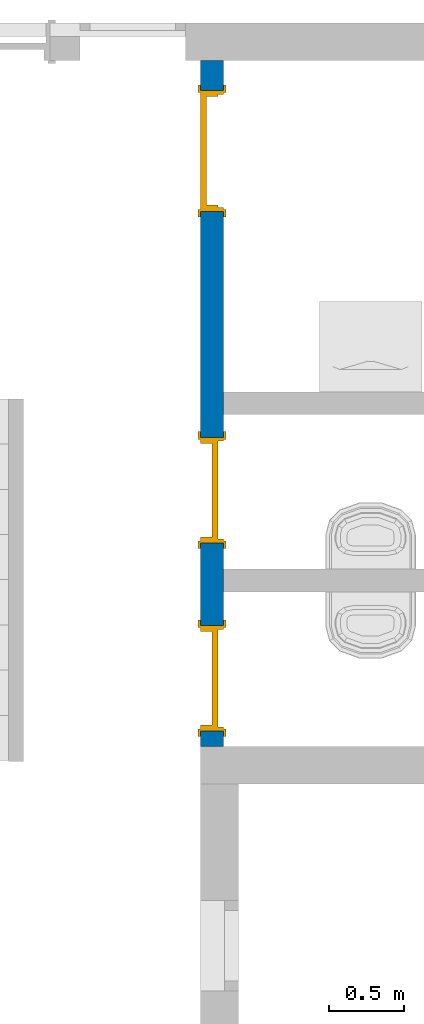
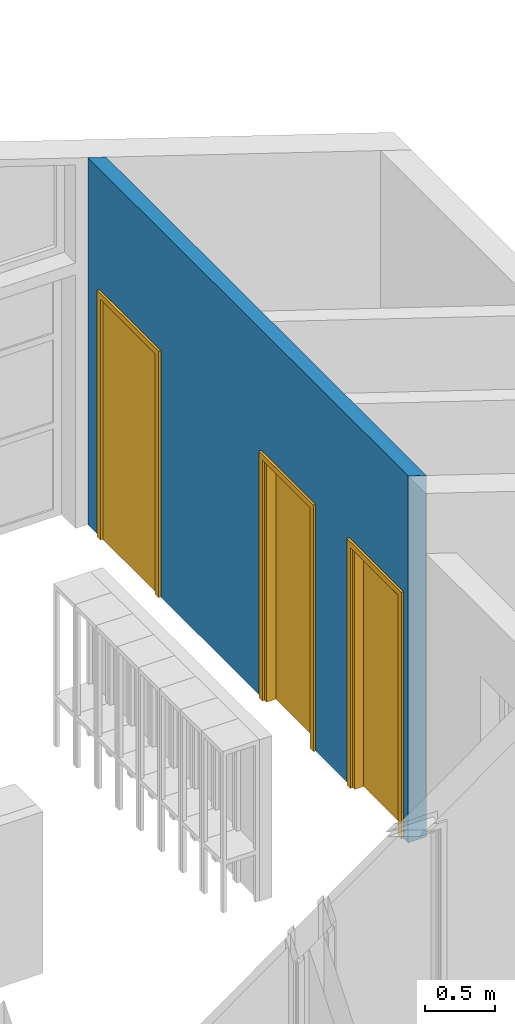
# One storey, part 16 of 48: 3 doors, 1 wall, 3 openings.
"""IFC2X3 building model written with IfcOpenShell, lengths in millimetres."""

import ifcopenshell
import ifcopenshell.guid

model = None  # the IFC model being written
_history = None  # IfcOwnerHistory: only IFC2X3 demands one
_inside = {}  # id of a spatial element -> (the spatial element, [elements in it])
_under = {}  # id of a project, library or spatial element -> (it, [spatial elements below it])
_declared = {}  # id of a project -> (the project, [libraries it declares])
_typed = {}  # id of a type object -> (the type object, [elements of that type])
_made_of = {}  # id of a material, layer set ... -> (it, [elements and type objects made of it])


def new_model(schema):
    """Start an empty IFC model of exactly this schema.

    Asked for "IFC4X3", IfcOpenShell would pick the latest addendum, in which some entities
    have other attributes; the version numbers below select the first issue.
    IFC2X3 requires an IfcOwnerHistory on every rooted entity: one is made here for all.
    """
    global model, _history
    if schema == "IFC4X3":
        model = ifcopenshell.file(schema_version=(4, 3, 0, 0))
    else:
        model = ifcopenshell.file(schema=schema)
    _inside.clear()
    _under.clear()
    _declared.clear()
    _typed.clear()
    _made_of.clear()
    _history = None
    if model.schema == "IFC2X3":
        org = make("IfcOrganization", Name="unknown")
        user = make(
            "IfcPersonAndOrganization",
            ThePerson=make("IfcPerson", FamilyName="unknown"),
            TheOrganization=org,
        )
        app = make(
            "IfcApplication",
            ApplicationDeveloper=org,
            Version="unknown",
            ApplicationFullName="unknown",
            ApplicationIdentifier="unknown",
        )
        _history = make(
            "IfcOwnerHistory",
            OwningUser=user,
            OwningApplication=app,
            ChangeAction="ADDED",
            CreationDate=0,
        )
    return model


def make(cls, **values):
    """One entity of the class cls with the attributes given. An attribute that is None is left unset."""
    return model.create_entity(
        cls, **{name: value for name, value in values.items() if value is not None}
    )


def entity(cls, *values):
    """Any entity or typed value of the class cls, its attributes in the order of the schema. None: left unset."""
    e = model.create_entity(cls)
    for i, value in enumerate(values):
        if value is not None:
            e[i] = value
    return e


def rooted(cls, **values):
    """An entity with a GlobalId (a new one), such as an element, a storey or a relation."""
    return make(cls, GlobalId=ifcopenshell.guid.new(), OwnerHistory=_history, **values)


def si_unit(unit_type, name, prefix=None):
    """IfcSIUnit, for example si_unit("LENGTHUNIT", "METRE", prefix="MILLI")."""
    return make("IfcSIUnit", UnitType=unit_type, Prefix=prefix, Name=name)


def converted_unit(unit_type, name, factor, base, dimensions=None, offset=None):
    """IfcConversionBasedUnit, such as the inch: factor (a typed value) times the base unit."""
    return make(
        "IfcConversionBasedUnit"
        if offset is None
        else "IfcConversionBasedUnitWithOffset",
        ConversionOffset=offset,
        Dimensions=None
        if dimensions is None
        else entity("IfcDimensionalExponents", *dimensions),
        UnitType=unit_type,
        Name=name,
        ConversionFactor=make(
            "IfcMeasureWithUnit", ValueComponent=factor, UnitComponent=base
        ),
    )


def derived_unit(unit_type, elements):
    """IfcDerivedUnit: a product of units, each with its exponent."""
    return make(
        "IfcDerivedUnit",
        Elements=[
            make("IfcDerivedUnitElement", Unit=unit, Exponent=power)
            for unit, power in elements
        ],
        UnitType=unit_type,
    )


def money_unit(currency):
    """IfcMonetaryUnit."""
    return make("IfcMonetaryUnit", Currency=currency)


def assignment(units):
    """IfcUnitAssignment: the units of a project."""
    return None if units is None else make("IfcUnitAssignment", Units=units)


def point(xyz):
    """IfcCartesianPoint."""
    return None if xyz is None else make("IfcCartesianPoint", Coordinates=xyz)


def direction(xyz):
    """IfcDirection."""
    return None if xyz is None else make("IfcDirection", DirectionRatios=xyz)


def frame(location, z_axis=None, x_axis=None):
    """IfcAxis2Placement3D, a coordinate frame: its origin and axes. An axis left out is left unset."""
    return make(
        "IfcAxis2Placement3D",
        Location=point(location),
        Axis=direction(z_axis),
        RefDirection=direction(x_axis),
    )


def origin_with_axes():
    """The frame at (0, 0, 0) with the z axis (0, 0, 1) and the x axis (1, 0, 0) written out."""
    return frame((0.0, 0.0, 0.0), z_axis=(0.0, 0.0, 1.0), x_axis=(1.0, 0.0, 0.0))


def place(relative_to, where):
    """IfcLocalPlacement: puts the frame where relative to a parent placement (None: the world)."""
    return make(
        "IfcLocalPlacement", PlacementRelTo=relative_to, RelativePlacement=where
    )


def context(
    kind, dimensions, precision=None, world=None, true_north=None, identifier=None
):
    """IfcGeometricRepresentationContext, for example the 3D "Model" context."""
    return make(
        "IfcGeometricRepresentationContext",
        ContextIdentifier=identifier,
        ContextType=kind,
        CoordinateSpaceDimension=dimensions,
        Precision=precision,
        WorldCoordinateSystem=world,
        TrueNorth=true_north,
    )


def subcontext(parent, identifier, kind, view, scale=None):
    """IfcGeometricRepresentationSubContext, for example "Body" below "Model"."""
    return make(
        "IfcGeometricRepresentationSubContext",
        ContextIdentifier=identifier,
        ContextType=kind,
        ParentContext=parent,
        TargetScale=scale,
        TargetView=view,
    )


def project(units=None, contexts=None):
    """IfcProject with its units and contexts."""
    return rooted(
        "IfcProject",
        Name="project",
        RepresentationContexts=contexts,
        UnitsInContext=assignment(units),
    )


def spatial(cls, under=None, at=None, **own):
    """A site, building, storey or space (cls), placed at a placement, below another one or the project."""
    s = rooted(cls, ObjectPlacement=at, **own)
    if under is not None:
        _under.setdefault(under.id(), (under, []))[1].append(s)
    return s


def faces_of(points, faces, orient=None, outer=None):
    """IfcFace entities. A face is a list of loops; a loop is a list of indices into points, from 0.

    orient and outer hold one flag for each loop. By default every Orientation is true, the
    first loop of a face is its IfcFaceOuterBound and the others are IfcFaceBound.
    """
    made = []
    for i, loops in enumerate(faces):
        bounds = []
        for j, loop in enumerate(loops):
            is_outer = j == 0 if outer is None else outer[i][j]
            bounds.append(
                make(
                    "IfcFaceOuterBound" if is_outer else "IfcFaceBound",
                    Bound=make("IfcPolyLoop", Polygon=[points[k] for k in loop]),
                    Orientation=True if orient is None else orient[i][j],
                )
            )
        made.append(make("IfcFace", Bounds=bounds))
    return made


def faceted_brep(points, faces, orient=None, outer=None, voids=None):
    """IfcFacetedBrep: a solid bounded by flat faces; with voids (closed shells), ...WithVoids."""
    shared = [point(p) for p in points]
    hull = make("IfcClosedShell", CfsFaces=faces_of(shared, faces, orient, outer))
    if voids is None:
        return make("IfcFacetedBrep", Outer=hull)
    return make(
        "IfcFacetedBrepWithVoids",
        Outer=hull,
        Voids=[
            make(cls, CfsFaces=faces_of(shared, fs, o, b)) for cls, fs, o, b in voids
        ],
    )


def shape(context_of_items, identifier, shape_type, items):
    """IfcShapeRepresentation: the items that make up one representation, for example the "Body"."""
    return make(
        "IfcShapeRepresentation",
        ContextOfItems=context_of_items,
        RepresentationIdentifier=identifier,
        RepresentationType=shape_type,
        Items=items,
    )


def source(mapping_origin, context_of_items, identifier, shape_type, items):
    """IfcRepresentationMap: a shape defined once, which mapped items show again and again."""
    return make(
        "IfcRepresentationMap",
        MappingOrigin=mapping_origin,
        MappedRepresentation=shape(context_of_items, identifier, shape_type, items),
    )


def transform(
    local_origin,
    x_axis=None,
    y_axis=None,
    z_axis=None,
    scale=None,
    scale2=None,
    scale3=None,
    uniform=True,
):
    """IfcCartesianTransformationOperator3D, or its non-uniform kind. x_axis, y_axis, z_axis: its Axis1, 2, 3."""
    if uniform:
        return make(
            "IfcCartesianTransformationOperator3D",
            Axis1=direction(x_axis),
            Axis2=direction(y_axis),
            LocalOrigin=point(local_origin),
            Scale=scale,
            Axis3=direction(z_axis),
        )
    return make(
        "IfcCartesianTransformationOperator3DnonUniform",
        Axis1=direction(x_axis),
        Axis2=direction(y_axis),
        LocalOrigin=point(local_origin),
        Scale=scale,
        Axis3=direction(z_axis),
        Scale2=scale2,
        Scale3=scale3,
    )


def mapped(mapping_source, mapping_target):
    """IfcMappedItem: shows the shape of a source again, moved by a transform."""
    return make(
        "IfcMappedItem", MappingSource=mapping_source, MappingTarget=mapping_target
    )


def material(Name=None, Category=None):
    """IfcMaterial."""
    return make("IfcMaterial", Name=Name, Category=Category)


def made_of(thing, what):
    """Note that an element or type object is made of a material, layer set ...; save() writes the relation."""
    if what is not None:
        _made_of.setdefault(what.id(), (what, []))[1].append(thing)
    return thing


def type_object(cls, material=None, **own):
    """A type object (cls), such as IfcWallType, which elements share."""
    return made_of(rooted(cls, **own), material)


def element(
    cls,
    number,
    at=None,
    inside=None,
    cuts=None,
    type_object=None,
    material=None,
    context=None,
    identifier="Body",
    shape_type=None,
    held_by="IfcProductDefinitionShape",
    body=None,
    shapes=None,
    **own,
):
    """One element of the class cls, such as IfcWall. Its Tag is "e" and its number.

    at: its placement. inside: the storey or other place that contains it. cuts: it is an
    opening in that element (IfcRelVoidsElement). A single representation is given by context,
    identifier, shape_type and body (its items); several are given by shapes. held_by: the class
    of the entity that holds the representations. save() writes the other relations.
    """
    e = rooted(cls, Tag="e%d" % number, ObjectPlacement=at, **own)
    if body is not None:
        shapes = [shape(context, identifier, shape_type, body)]
    if shapes is not None:
        e.Representation = make(held_by, Representations=shapes)
    if inside is not None:
        _inside.setdefault(inside.id(), (inside, []))[1].append(e)
    if cuts is not None:
        rooted(
            "IfcRelVoidsElement", RelatingBuildingElement=cuts, RelatedOpeningElement=e
        )
    if type_object is not None:
        _typed.setdefault(type_object.id(), (type_object, []))[1].append(e)
    return made_of(e, material)


def fill(opening, filler):
    """IfcRelFillsElement: the door or window that sits in an opening."""
    return rooted(
        "IfcRelFillsElement",
        RelatingOpeningElement=opening,
        RelatedBuildingElement=filler,
    )


def aggregate(whole, parts):
    """IfcRelAggregates: a whole, such as a stair, and the parts it consists of."""
    return rooted("IfcRelAggregates", RelatingObject=whole, RelatedObjects=parts)


def save(model, path):
    """Write the relations noted so far, then the file.

    IfcRelAggregates (storeys below a building ...), IfcRelContainedInSpatialStructure (elements
    in a storey), IfcRelDefinesByType, IfcRelAssociatesMaterial and IfcRelDeclares: one each for
    every whole, place, type object, material and project.
    """
    for whole, parts in _under.values():
        aggregate(whole, parts)
    for where, things in _inside.values():
        rooted(
            "IfcRelContainedInSpatialStructure",
            RelatedElements=things,
            RelatingStructure=where,
        )
    for kind, things in _typed.values():
        rooted("IfcRelDefinesByType", RelatedObjects=things, RelatingType=kind)
    for what, things in _made_of.values():
        rooted("IfcRelAssociatesMaterial", RelatedObjects=things, RelatingMaterial=what)
    for by, libraries in _declared.values():
        rooted("IfcRelDeclares", RelatingContext=by, RelatedDefinitions=libraries)
    model.write(path)


model = new_model("IFC2X3")

# Units and contexts
model_context = context("Model", 3, precision=0.01, world=origin_with_axes(), true_north=direction((0.0, 1.0)))
body_context = subcontext(model_context, "Body", "Model", "MODEL_VIEW")
ifc_project = project(units=[si_unit("LENGTHUNIT", "METRE", prefix="MILLI"), si_unit("AREAUNIT", "SQUARE_METRE"), si_unit("VOLUMEUNIT", "CUBIC_METRE"), converted_unit("PLANEANGLEUNIT", "DEGREE", entity("IfcPlaneAngleMeasure", 0.0174532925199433), si_unit("PLANEANGLEUNIT", "RADIAN"), dimensions=[0, 0, 0, 0, 0, 0, 0]), money_unit("USD"), converted_unit("TIMEUNIT", "Year", entity("IfcTimeMeasure", 31557600.0), si_unit("TIMEUNIT", "SECOND"), dimensions=[0, 0, 1, 0, 0, 0, 0]), si_unit("MASSUNIT", "GRAM", prefix="KILO"), si_unit("THERMODYNAMICTEMPERATUREUNIT", "DEGREE_CELSIUS"), si_unit("LUMINOUSINTENSITYUNIT", "LUMEN"), si_unit("ENERGYUNIT", "JOULE", prefix="MEGA"), derived_unit("THERMALCONDUCTANCEUNIT", [(si_unit("POWERUNIT", "WATT"), 1), (si_unit("LENGTHUNIT", "METRE"), -1), (si_unit("THERMODYNAMICTEMPERATUREUNIT", "KELVIN"), -1)]), derived_unit("SPECIFICHEATCAPACITYUNIT", [(si_unit("ENERGYUNIT", "JOULE"), 1), (si_unit("MASSUNIT", "GRAM", prefix="KILO"), -1), (si_unit("THERMODYNAMICTEMPERATUREUNIT", "KELVIN"), -1)]), derived_unit("MASSDENSITYUNIT", [(si_unit("MASSUNIT", "GRAM", prefix="KILO"), 1), (si_unit("VOLUMEUNIT", "CUBIC_METRE"), -1)])], contexts=[model_context])

# Site, building, storey
site_placement = place(None, origin_with_axes())
site = spatial("IfcSite", under=ifc_project, at=site_placement, Name="Site", CompositionType="ELEMENT")
building_placement = place(site_placement, origin_with_axes())
building = spatial("IfcBuilding", under=site, at=building_placement, Name="Building", CompositionType="ELEMENT")
storey_placement = place(building_placement, frame((0.0, 0.0, 3300.0), z_axis=(0.0, 0.0, 1.0), x_axis=(1.0, 0.0, 0.0)))
storey = spatial("IfcBuildingStorey", under=building, at=storey_placement, Name="1 ETG", CompositionType="ELEMENT", Elevation=3300.0)

# Wall, openings, doors
ifc_material = material(Name="GENERIC - INTERNAL FILLER")
wall_type = type_object("IfcWallType", Name="GENERIC - INTERNAL FILLER 150", PredefinedType="NOTDEFINED")
wall_placement = place(storey_placement, frame((8950.002205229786, 24324.73665493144, 0.0), z_axis=(0.0, 0.0, 1.0), x_axis=(0.0, 1.0, 0.0)))
wall = element("IfcWall", 1, at=wall_placement, inside=storey, type_object=wall_type, material=ifc_material, Name="SW - 001", context=body_context, shape_type="Brep", body=[
    faceted_brep([(101.4667164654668, -74.99999999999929, 0.0), (101.4667164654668, -74.99999999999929, 2100.0), (801.4667164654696, -74.99999999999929, 2100.0), (801.4667164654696, -74.99999999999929, 0.0), (1350.079734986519, -74.99999999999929, 0.0), (1350.079734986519, -74.99999999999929, 2100.0), (2050.079734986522, -74.99999999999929, 2100.0), (2050.079734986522, -74.99999999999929, 0.0), (3550.138326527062, -74.99999999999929, 0.0), (3550.138326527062, -74.99999999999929, 2100.0), (4350.138326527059, -74.99999999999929, 2100.0), (4350.138326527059, -74.99999999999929, 0.0), (4550.138326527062, -74.99999999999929, 0.0), (4550.138326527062, -74.99999999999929, 3131.068206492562), (0.0, -74.99999999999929, 3131.068206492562), (0.0, -74.99999999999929, 0.0), (101.4667164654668, 74.99999999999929, 0.0), (101.4667164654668, 74.99999999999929, 2100.0), (801.4667164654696, 74.99999999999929, 2100.0), (801.4667164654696, 74.99999999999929, 0.0), (1350.079734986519, 74.99999999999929, 0.0), (1350.079734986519, 74.99999999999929, 2100.0), (2050.079734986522, 74.99999999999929, 2100.0), (2050.079734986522, 74.99999999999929, 0.0), (3550.138326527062, 74.99999999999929, 0.0), (3550.138326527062, 74.99999999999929, 2100.0), (4350.138326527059, 74.99999999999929, 2100.0), (4350.138326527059, 74.99999999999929, 0.0), (4550.138326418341, 74.99999999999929, 0.0), (4550.138326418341, 75.00000000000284, 3179.806204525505), (0.0, 75.00000000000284, 3179.806204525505), (0.0, 74.99999999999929, 0.0)], [[[0, 1, 2, 3, 4, 5, 6, 7, 8, 9, 10, 11, 12, 13, 14, 15]], [[1, 0, 16, 17]], [[2, 1, 17, 18]], [[3, 2, 18, 19]], [[3, 19, 20, 4]], [[4, 20, 21, 5]], [[5, 21, 22, 6]], [[6, 22, 23, 7]], [[23, 24, 8, 7]], [[24, 25, 9, 8]], [[25, 26, 10, 9]], [[26, 27, 11, 10]], [[28, 12, 11, 27]], [[12, 28, 29, 13]], [[29, 30, 14, 13]], [[31, 15, 14, 30]], [[16, 0, 15, 31]], [[17, 16, 31, 30, 29, 28, 27, 26, 25, 24, 23, 22, 21, 20, 19, 18]]]),
])
opening_1_placement = place(wall_placement, frame((3950.138326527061, 0.0, 0.0), z_axis=(0.0, 0.0, 1.0), x_axis=(1.0, 0.0, 0.0)))
opening_1 = element("IfcOpeningElement", 2, at=opening_1_placement, cuts=wall, Name="DOO - 002", context=body_context, shape_type="Brep", body=[
    faceted_brep([(399.9999999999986, 75.00000000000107, 0.0), (399.9999999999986, 75.00000000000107, 2100.0), (399.9999999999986, -74.99999999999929, 2100.0), (399.9999999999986, -74.99999999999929, 0.0), (-399.9999999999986, 75.00000000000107, 2100.0), (437.0000000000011, 75.00000000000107, 0.0), (437.0000000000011, 75.00000000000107, 2137.0), (-437.0000000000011, 75.00000000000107, 2137.0), (-437.0000000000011, 75.00000000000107, 0.0), (-399.9999999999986, 75.00000000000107, 0.0), (-399.9999999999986, -74.99999999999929, 2100.0), (-399.9999999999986, -74.99999999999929, 0.0), (-437.0000000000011, -74.99999999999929, 0.0), (-437.0000000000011, -74.99999999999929, 2137.0), (437.0000000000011, -74.99999999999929, 2137.0), (437.0000000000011, -74.99999999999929, 0.0), (399.9999999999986, 75.99999999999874, 0.0), (399.9999999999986, -75.99999999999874, 0.0), (-399.9999999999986, -75.99999999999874, 0.0), (-399.9999999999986, 75.99999999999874, 0.0), (437.0000000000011, 75.99999999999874, 0.0), (437.0000000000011, 75.99999999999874, 2137.0), (-437.0000000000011, 75.99999999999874, 2137.0), (-437.0000000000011, 75.99999999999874, 0.0), (-437.0000000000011, -75.99999999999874, 0.0), (-437.0000000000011, -75.99999999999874, 2137.0), (437.0000000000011, -75.99999999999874, 2137.0), (437.0000000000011, -75.99999999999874, 0.0), (399.9999999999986, 75.99999999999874, 2100.0), (-399.9999999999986, 75.99999999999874, 2100.0)], [[[0, 1, 2, 3]], [[4, 1, 0, 5, 6, 7, 8, 9]], [[1, 4, 10, 2]], [[3, 2, 10, 11, 12, 13, 14, 15]], [[16, 0, 3, 17, 18, 11, 9, 19]], [[0, 16, 20, 5]], [[6, 5, 20, 21]], [[7, 6, 21, 22]], [[8, 7, 22, 23]], [[19, 9, 8, 23]], [[4, 9, 11, 10]], [[11, 18, 24, 12]], [[13, 12, 24, 25]], [[14, 13, 25, 26]], [[15, 14, 26, 27]], [[17, 3, 15, 27]], [[17, 27, 26, 25, 24, 18]], [[28, 16, 19, 29]], [[16, 28, 29, 19, 23, 22, 21, 20]]]),
])
opening_2_placement = place(wall_placement, frame((451.4667164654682, 0.0, 0.0), z_axis=(0.0, 0.0, 1.0), x_axis=(1.0, 0.0, 0.0)))
opening_2 = element("IfcOpeningElement", 3, at=opening_2_placement, cuts=wall, Name="DOO - 002", context=body_context, shape_type="Brep", body=[
    faceted_brep([(350.0000000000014, 75.00000000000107, 0.0), (350.0000000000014, 75.00000000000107, 2100.0), (350.0000000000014, -74.99999999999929, 2100.0), (350.0000000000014, -74.99999999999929, 0.0), (-350.0000000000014, 75.00000000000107, 2100.0), (387.0000000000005, 75.00000000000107, 0.0), (387.0000000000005, 75.00000000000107, 2137.0), (-387.0000000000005, 75.00000000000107, 2137.0), (-387.0000000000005, 75.00000000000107, 0.0), (-350.0000000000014, 75.00000000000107, 0.0), (-350.0000000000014, -74.99999999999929, 2100.0), (-350.0000000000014, -74.99999999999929, 0.0), (-387.0000000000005, -74.99999999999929, 0.0), (-387.0000000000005, -74.99999999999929, 2137.0), (387.0000000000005, -74.99999999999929, 2137.0), (387.0000000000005, -74.99999999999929, 0.0), (350.0000000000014, 75.99999999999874, 0.0), (350.0000000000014, -75.99999999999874, 0.0), (-350.0000000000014, -75.99999999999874, 0.0), (-350.0000000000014, 75.99999999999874, 0.0), (387.0000000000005, 75.99999999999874, 0.0), (387.0000000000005, 75.99999999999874, 2137.0), (-387.0000000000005, 75.99999999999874, 2137.0), (-387.0000000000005, 75.99999999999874, 0.0), (-387.0000000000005, -75.99999999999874, 0.0), (-387.0000000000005, -75.99999999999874, 2137.0), (387.0000000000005, -75.99999999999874, 2137.0), (387.0000000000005, -75.99999999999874, 0.0), (350.0000000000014, 75.99999999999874, 2100.0), (-350.0000000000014, 75.99999999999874, 2100.0)], [[[0, 1, 2, 3]], [[4, 1, 0, 5, 6, 7, 8, 9]], [[1, 4, 10, 2]], [[3, 2, 10, 11, 12, 13, 14, 15]], [[16, 0, 3, 17, 18, 11, 9, 19]], [[0, 16, 20, 5]], [[6, 5, 20, 21]], [[7, 6, 21, 22]], [[8, 7, 22, 23]], [[19, 9, 8, 23]], [[4, 9, 11, 10]], [[11, 18, 24, 12]], [[13, 12, 24, 25]], [[14, 13, 25, 26]], [[15, 14, 26, 27]], [[17, 3, 15, 27]], [[17, 27, 26, 25, 24, 18]], [[28, 16, 19, 29]], [[16, 28, 29, 19, 23, 22, 21, 20]]]),
])
opening_3_placement = place(wall_placement, frame((1700.07973498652, 0.0, 0.0), z_axis=(0.0, 0.0, 1.0), x_axis=(1.0, 0.0, 0.0)))
opening_3 = element("IfcOpeningElement", 4, at=opening_3_placement, cuts=wall, Name="DOO - 002", context=body_context, shape_type="Brep", body=[
    faceted_brep([(350.0000000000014, 75.00000000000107, 0.0), (350.0000000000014, 75.00000000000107, 2100.0), (350.0000000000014, -74.99999999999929, 2100.0), (350.0000000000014, -74.99999999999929, 0.0), (-350.0000000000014, 75.00000000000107, 2100.0), (387.0000000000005, 75.00000000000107, 0.0), (387.0000000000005, 75.00000000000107, 2137.0), (-387.0000000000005, 75.00000000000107, 2137.0), (-387.0000000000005, 75.00000000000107, 0.0), (-350.0000000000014, 75.00000000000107, 0.0), (-350.0000000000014, -74.99999999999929, 2100.0), (-350.0000000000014, -74.99999999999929, 0.0), (-387.0000000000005, -74.99999999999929, 0.0), (-387.0000000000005, -74.99999999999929, 2137.0), (387.0000000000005, -74.99999999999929, 2137.0), (387.0000000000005, -74.99999999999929, 0.0), (350.0000000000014, 75.99999999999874, 0.0), (350.0000000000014, -75.99999999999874, 0.0), (-350.0000000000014, -75.99999999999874, 0.0), (-350.0000000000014, 75.99999999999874, 0.0), (387.0000000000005, 75.99999999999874, 0.0), (387.0000000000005, 75.99999999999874, 2137.0), (-387.0000000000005, 75.99999999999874, 2137.0), (-387.0000000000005, 75.99999999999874, 0.0), (-387.0000000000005, -75.99999999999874, 0.0), (-387.0000000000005, -75.99999999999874, 2137.0), (387.0000000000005, -75.99999999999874, 2137.0), (387.0000000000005, -75.99999999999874, 0.0), (350.0000000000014, 75.99999999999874, 2100.0), (-350.0000000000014, 75.99999999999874, 2100.0)], [[[0, 1, 2, 3]], [[4, 1, 0, 5, 6, 7, 8, 9]], [[1, 4, 10, 2]], [[3, 2, 10, 11, 12, 13, 14, 15]], [[16, 0, 3, 17, 18, 11, 9, 19]], [[0, 16, 20, 5]], [[6, 5, 20, 21]], [[7, 6, 21, 22]], [[8, 7, 22, 23]], [[19, 9, 8, 23]], [[4, 9, 11, 10]], [[11, 18, 24, 12]], [[13, 12, 24, 25]], [[14, 13, 25, 26]], [[15, 14, 26, 27]], [[17, 3, 15, 27]], [[17, 27, 26, 25, 24, 18]], [[28, 16, 19, 29]], [[16, 28, 29, 19, 23, 22, 21, 20]]]),
])
door_style_1 = type_object("IfcDoorStyle", Name="Dør", ConstructionType="NOTDEFINED", OperationType="SINGLE_SWING_RIGHT", ParameterTakesPrecedence=False, Sizeable=False)
shared_shape = source(origin_with_axes(), body_context, "Body", "Brep", [
    faceted_brep([(-400.0, -115.0, 0.0), (-375.0, -115.0, 0.0), (-375.0, -150.0, 0.0), (-400.0, -150.0, 0.0), (-400.0, -115.0000000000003, 2100.0), (-375.0, -115.0000000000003, 2075.0), (-375.0, -150.0000000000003, 2075.0), (-400.0, -150.0000000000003, 2100.0)], [[[0, 1, 2, 3]], [[0, 4, 5, 1]], [[1, 5, 6, 2]], [[3, 2, 6, 7]], [[4, 0, 3, 7]], [[5, 4, 7, 6]]]),
    faceted_brep([(400.0, -115.0000000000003, 2100.0), (375.0, -115.0000000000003, 2075.0), (375.0, -150.0000000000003, 2075.0), (400.0, -150.0000000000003, 2100.0), (400.0, -115.0, 0.0), (375.0, -115.0, 0.0), (375.0, -150.0, 0.0), (400.0, -150.0, 0.0)], [[[0, 1, 2, 3]], [[0, 4, 5, 1]], [[1, 5, 6, 2]], [[3, 2, 6, 7]], [[4, 0, 3, 7]], [[5, 4, 7, 6]]]),
    faceted_brep([(-375.0, -115.0000000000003, 2075.0), (375.0, -115.0000000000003, 2075.0), (375.0, -150.0000000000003, 2075.0), (-375.0, -150.0000000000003, 2075.0), (-400.0, -115.0000000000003, 2100.0), (400.0, -115.0000000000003, 2100.0), (400.0, -150.0000000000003, 2100.0), (-400.0, -150.0000000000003, 2100.0)], [[[0, 1, 2, 3]], [[0, 4, 5, 1]], [[1, 5, 6, 2]], [[3, 2, 6, 7]], [[4, 0, 3, 7]], [[5, 4, 7, 6]]]),
    faceted_brep([(-437.0, -169.0, 0.0), (-437.0, -150.0, 0.0), (-387.0, -150.0, 0.0), (-387.0, -169.0, 0.0), (-437.0, -169.0000000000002, 2137.0), (-437.0, -150.0000000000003, 2137.0), (-387.0, -150.0000000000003, 2087.0), (-387.0, -169.0000000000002, 2087.0)], [[[0, 1, 2, 3]], [[4, 5, 1, 0]], [[1, 5, 6, 2]], [[3, 2, 6, 7]], [[0, 3, 7, 4]], [[7, 6, 5, 4]]]),
    faceted_brep([(437.0, -169.0000000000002, 2137.0), (437.0, -150.0000000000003, 2137.0), (387.0, -150.0000000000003, 2087.0), (387.0, -169.0000000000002, 2087.0), (437.0, -169.0, 0.0), (437.0, -150.0, 0.0), (387.0, -150.0, 0.0), (387.0, -169.0, 0.0)], [[[0, 1, 2, 3]], [[4, 5, 1, 0]], [[1, 5, 6, 2]], [[3, 2, 6, 7]], [[0, 3, 7, 4]], [[7, 6, 5, 4]]]),
    faceted_brep([(-437.0, -169.0000000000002, 2137.0), (-437.0, -150.0000000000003, 2137.0), (-387.0, -150.0000000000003, 2087.0), (-387.0, -169.0000000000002, 2087.0), (437.0, -169.0000000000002, 2137.0), (437.0, -150.0000000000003, 2137.0), (387.0, -150.0000000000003, 2087.0), (387.0, -169.0000000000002, 2087.0)], [[[0, 1, 2, 3]], [[4, 5, 1, 0]], [[1, 5, 6, 2]], [[3, 2, 6, 7]], [[0, 3, 7, 4]], [[7, 6, 5, 4]]]),
    faceted_brep([(-437.0, 19.0, 0.0), (-387.0, 19.0, 0.0), (-387.0, 0.0, 0.0), (-437.0, 0.0, 0.0), (-437.0, 18.99999999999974, 2137.0), (-387.0, 18.99999999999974, 2087.0), (-387.0, 0.0, 2087.0), (-437.0, 0.0, 2137.0)], [[[0, 1, 2, 3]], [[0, 4, 5, 1]], [[1, 5, 6, 2]], [[3, 2, 6, 7]], [[4, 0, 3, 7]], [[5, 4, 7, 6]]]),
    faceted_brep([(437.0, 18.99999999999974, 2137.0), (387.0, 18.99999999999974, 2087.0), (387.0, 0.0, 2087.0), (437.0, 0.0, 2137.0), (437.0, 19.0, 0.0), (387.0, 19.0, 0.0), (387.0, 0.0, 0.0), (437.0, 0.0, 0.0)], [[[0, 1, 2, 3]], [[0, 4, 5, 1]], [[1, 5, 6, 2]], [[3, 2, 6, 7]], [[4, 0, 3, 7]], [[5, 4, 7, 6]]]),
    faceted_brep([(-437.0000000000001, 18.99999999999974, 2137.0), (-387.0, 18.99999999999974, 2087.0), (-387.0, 0.0, 2087.0), (-437.0000000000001, 0.0, 2137.0), (437.0000000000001, 18.99999999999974, 2137.0), (387.0, 18.99999999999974, 2087.0), (387.0, 0.0, 2087.0), (437.0000000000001, 0.0, 2137.0)], [[[0, 1, 2, 3]], [[0, 4, 5, 1]], [[1, 5, 6, 2]], [[3, 2, 6, 7]], [[4, 0, 3, 7]], [[5, 4, 7, 6]]]),
    faceted_brep([(-400.0, 0.0, 0.0), (-360.0000000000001, 0.0, 0.0), (-360.0000000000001, -115.0, 0.0), (-400.0, -115.0, 0.0), (-400.0, 0.0, 2060.0), (-360.0000000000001, 0.0, 2060.0), (-360.0000000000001, -115.0, 2060.0), (-400.0, -115.0, 2060.0)], [[[0, 1, 2, 3]], [[0, 4, 5, 1]], [[1, 5, 6, 2]], [[3, 2, 6, 7]], [[4, 0, 3, 7]], [[5, 4, 7, 6]]]),
    faceted_brep([(400.0, 0.0, 0.0), (400.0, 0.0, 2060.0), (400.0, -115.0, 2060.0), (400.0, -115.0, 0.0), (360.0000000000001, 0.0, 0.0), (360.0000000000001, 0.0, 2060.0), (360.0000000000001, -115.0, 2060.0), (360.0000000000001, -115.0, 0.0)], [[[0, 1, 2, 3]], [[0, 4, 5, 1]], [[1, 5, 6, 2]], [[3, 2, 6, 7]], [[4, 0, 3, 7]], [[5, 4, 7, 6]]]),
    faceted_brep([(-400.0, 0.0, 2100.0), (-400.0, 0.0, 2060.0), (-400.0, -115.0, 2060.0), (-400.0, -115.0, 2100.0), (400.0, 0.0, 2100.0), (400.0, 0.0, 2060.0), (360.0000000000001, 0.0, 2060.0), (-360.0000000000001, 0.0, 2060.0), (-360.0000000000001, -115.0, 2060.0), (360.0000000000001, -115.0, 2060.0), (400.0, -115.0, 2060.0), (400.0, -115.0, 2100.0)], [[[0, 1, 2, 3]], [[0, 4, 5, 6, 7, 1]], [[1, 7, 8, 2]], [[3, 2, 8, 9, 10, 11]], [[4, 0, 3, 11]], [[5, 4, 11, 10]], [[6, 5, 10, 9]], [[7, 6, 9, 8]]]),
    faceted_brep([(359.9999999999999, 0.0, 0.0), (359.9999999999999, -40.0, 0.0), (-360.0000000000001, -40.0, 0.0), (-360.0000000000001, 0.0, 0.0), (359.9999999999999, 0.0, 2060.0), (359.9999999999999, -40.00000000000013, 2060.0), (-360.0000000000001, -40.00000000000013, 2060.0), (-360.0000000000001, 0.0, 2060.0)], [[[0, 1, 2, 3]], [[4, 5, 1, 0]], [[1, 5, 6, 2]], [[3, 2, 6, 7]], [[0, 3, 7, 4]], [[7, 6, 5, 4]]]),
])
door_1_placement = place(opening_1_placement, frame((-399.9999999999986, 0.0, 0.0), z_axis=(0.0, 0.0, 1.0), x_axis=(1.0, 0.0, 0.0)))
door_1 = element("IfcDoor", 5, at=door_1_placement, inside=storey, type_object=door_style_1, Name="DOO - 002", ObjectType="DOOR", OverallHeight=2100.0, OverallWidth=800.0, context=body_context, shape_type="MappedRepresentation", body=[
    mapped(shared_shape, transform((399.9999999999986, 75.00000000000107, 0.0))),
])
fill(opening_1, door_1)
door_style_2 = type_object("IfcDoorStyle", Name="Dør", ConstructionType="NOTDEFINED", OperationType="SINGLE_SWING_LEFT", ParameterTakesPrecedence=False, Sizeable=False)
door_2_placement = place(opening_3_placement, frame((350.0000000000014, 0.0, 0.0), z_axis=(0.0, 0.0, 1.0), x_axis=(-1.0, 0.0, 0.0)))
door_2 = element("IfcDoor", 6, at=door_2_placement, inside=storey, type_object=door_style_2, Name="DOO - 002", ObjectType="DOOR", OverallHeight=2100.0, OverallWidth=700.0, context=body_context, shape_type="Brep", body=[
    faceted_brep([(700.0000000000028, 39.99999999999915, 0.0), (675.0000000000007, 39.99999999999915, 0.0), (675.0000000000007, 74.99999999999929, 0.0), (700.0000000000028, 74.99999999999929, 0.0), (700.0000000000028, 39.99999999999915, 2100.0), (675.0000000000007, 39.99999999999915, 2075.0), (675.0000000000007, 74.99999999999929, 2075.0), (700.0000000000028, 74.99999999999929, 2100.0)], [[[0, 1, 2, 3]], [[0, 4, 5, 1]], [[1, 5, 6, 2]], [[3, 2, 6, 7]], [[4, 0, 3, 7]], [[5, 4, 7, 6]]]),
    faceted_brep([(0.0, 39.99999999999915, 2100.0), (25.00000000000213, 39.99999999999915, 2075.0), (25.00000000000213, 74.99999999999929, 2075.0), (0.0, 74.99999999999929, 2100.0), (0.0, 39.99999999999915, 0.0), (25.00000000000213, 39.99999999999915, 0.0), (25.00000000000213, 74.99999999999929, 0.0), (0.0, 74.99999999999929, 0.0)], [[[0, 1, 2, 3]], [[0, 4, 5, 1]], [[1, 5, 6, 2]], [[3, 2, 6, 7]], [[4, 0, 3, 7]], [[5, 4, 7, 6]]]),
    faceted_brep([(675.0000000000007, 39.99999999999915, 2075.0), (25.00000000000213, 39.99999999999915, 2075.0), (25.00000000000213, 74.99999999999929, 2075.0), (675.0000000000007, 74.99999999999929, 2075.0), (700.0000000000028, 39.99999999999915, 2100.0), (0.0, 39.99999999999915, 2100.0), (0.0, 74.99999999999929, 2100.0), (700.0000000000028, 74.99999999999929, 2100.0)], [[[0, 1, 2, 3]], [[0, 4, 5, 1]], [[1, 5, 6, 2]], [[3, 2, 6, 7]], [[4, 0, 3, 7]], [[5, 4, 7, 6]]]),
    faceted_brep([(737.0000000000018, 93.99999999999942, 0.0), (737.0000000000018, 74.99999999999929, 0.0), (687.0000000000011, 74.99999999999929, 0.0), (687.0000000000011, 93.99999999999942, 0.0), (737.0000000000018, 93.99999999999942, 2137.0), (737.0000000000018, 74.99999999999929, 2137.0), (687.0000000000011, 74.99999999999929, 2087.0), (687.0000000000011, 93.99999999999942, 2087.0)], [[[0, 1, 2, 3]], [[4, 5, 1, 0]], [[1, 5, 6, 2]], [[3, 2, 6, 7]], [[0, 3, 7, 4]], [[7, 6, 5, 4]]]),
    faceted_brep([(-36.99999999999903, 93.99999999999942, 2137.0), (-36.99999999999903, 74.99999999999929, 2137.0), (13.00000000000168, 74.99999999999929, 2087.0), (13.00000000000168, 93.99999999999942, 2087.0), (-36.99999999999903, 93.99999999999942, 0.0), (-36.99999999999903, 74.99999999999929, 0.0), (13.00000000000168, 74.99999999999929, 0.0), (13.00000000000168, 93.99999999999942, 0.0)], [[[0, 1, 2, 3]], [[4, 5, 1, 0]], [[1, 5, 6, 2]], [[3, 2, 6, 7]], [[0, 3, 7, 4]], [[7, 6, 5, 4]]]),
    faceted_brep([(737.0000000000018, 93.99999999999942, 2137.0), (737.0000000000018, 74.99999999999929, 2137.0), (687.0000000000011, 74.99999999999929, 2087.0), (687.0000000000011, 93.99999999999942, 2087.0), (-36.99999999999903, 93.99999999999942, 2137.0), (-36.99999999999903, 74.99999999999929, 2137.0), (13.00000000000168, 74.99999999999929, 2087.0), (13.00000000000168, 93.99999999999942, 2087.0)], [[[0, 1, 2, 3]], [[4, 5, 1, 0]], [[1, 5, 6, 2]], [[3, 2, 6, 7]], [[0, 3, 7, 4]], [[7, 6, 5, 4]]]),
    faceted_brep([(737.0000000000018, -94.0000000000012, 0.0), (687.0000000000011, -94.0000000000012, 0.0), (687.0000000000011, -75.00000000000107, 0.0), (737.0000000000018, -75.00000000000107, 0.0), (737.0000000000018, -94.0000000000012, 2137.0), (687.0000000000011, -94.0000000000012, 2087.0), (687.0000000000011, -75.00000000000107, 2087.0), (737.0000000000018, -75.00000000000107, 2137.0)], [[[0, 1, 2, 3]], [[0, 4, 5, 1]], [[1, 5, 6, 2]], [[3, 2, 6, 7]], [[4, 0, 3, 7]], [[5, 4, 7, 6]]]),
    faceted_brep([(-36.99999999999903, -94.0000000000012, 2137.0), (13.00000000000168, -94.0000000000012, 2087.0), (13.00000000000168, -75.00000000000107, 2087.0), (-36.99999999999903, -75.00000000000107, 2137.0), (-36.99999999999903, -94.0000000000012, 0.0), (13.00000000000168, -94.0000000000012, 0.0), (13.00000000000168, -75.00000000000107, 0.0), (-36.99999999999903, -75.00000000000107, 0.0)], [[[0, 1, 2, 3]], [[0, 4, 5, 1]], [[1, 5, 6, 2]], [[3, 2, 6, 7]], [[4, 0, 3, 7]], [[5, 4, 7, 6]]]),
    faceted_brep([(737.0000000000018, -94.0000000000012, 2137.0), (687.0000000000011, -94.0000000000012, 2087.0), (687.0000000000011, -75.00000000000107, 2087.0), (737.0000000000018, -75.00000000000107, 2137.0), (-36.99999999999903, -94.0000000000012, 2137.0), (13.00000000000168, -94.0000000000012, 2087.0), (13.00000000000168, -75.00000000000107, 2087.0), (-36.99999999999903, -75.00000000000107, 2137.0)], [[[0, 1, 2, 3]], [[0, 4, 5, 1]], [[1, 5, 6, 2]], [[3, 2, 6, 7]], [[4, 0, 3, 7]], [[5, 4, 7, 6]]]),
    faceted_brep([(700.0000000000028, 39.99999999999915, 0.0), (700.0000000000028, -75.00000000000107, 0.0), (660.0000000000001, -75.00000000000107, 0.0), (660.0000000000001, 39.99999999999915, 0.0), (700.0000000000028, 39.99999999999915, 2060.0), (700.0000000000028, -75.00000000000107, 2060.0), (660.0000000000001, -75.00000000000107, 2060.0), (660.0000000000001, 39.99999999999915, 2060.0)], [[[0, 1, 2, 3]], [[4, 5, 1, 0]], [[1, 5, 6, 2]], [[3, 2, 6, 7]], [[0, 3, 7, 4]], [[7, 6, 5, 4]]]),
    faceted_brep([(0.0, 39.99999999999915, 0.0), (0.0, -75.00000000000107, 0.0), (0.0, -75.00000000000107, 2060.0), (0.0, 39.99999999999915, 2060.0), (40.0000000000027, 39.99999999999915, 0.0), (40.0000000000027, -75.00000000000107, 0.0), (40.0000000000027, -75.00000000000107, 2060.0), (40.0000000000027, 39.99999999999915, 2060.0)], [[[0, 1, 2, 3]], [[4, 5, 1, 0]], [[1, 5, 6, 2]], [[3, 2, 6, 7]], [[0, 3, 7, 4]], [[7, 6, 5, 4]]]),
    faceted_brep([(700.0000000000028, 39.99999999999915, 2100.0), (700.0000000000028, -75.00000000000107, 2100.0), (700.0000000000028, -75.00000000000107, 2060.0), (700.0000000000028, 39.99999999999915, 2060.0), (0.0, 39.99999999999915, 2100.0), (0.0, -75.00000000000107, 2100.0), (0.0, -75.00000000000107, 2060.0), (40.0000000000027, -75.00000000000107, 2060.0), (660.0000000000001, -75.00000000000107, 2060.0), (660.0000000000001, 39.99999999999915, 2060.0), (40.0000000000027, 39.99999999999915, 2060.0), (0.0, 39.99999999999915, 2060.0)], [[[0, 1, 2, 3]], [[4, 5, 1, 0]], [[1, 5, 6, 7, 8, 2]], [[3, 2, 8, 9]], [[0, 3, 9, 10, 11, 4]], [[11, 6, 5, 4]], [[10, 7, 6, 11]], [[9, 8, 7, 10]]]),
    faceted_brep([(40.0000000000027, 39.99999999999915, 0.0), (660.0000000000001, 39.99999999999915, 0.0), (660.0000000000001, 0.0, 0.0), (40.0000000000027, 0.0, 0.0), (40.0000000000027, 39.99999999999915, 2060.0), (660.0000000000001, 39.99999999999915, 2060.0), (660.0000000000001, 0.0, 2060.0), (40.0000000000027, 0.0, 2060.0)], [[[0, 1, 2, 3]], [[0, 4, 5, 1]], [[1, 5, 6, 2]], [[3, 2, 6, 7]], [[4, 0, 3, 7]], [[5, 4, 7, 6]]]),
])
fill(opening_3, door_2)
door_style_3 = type_object("IfcDoorStyle", Name="Dør", ConstructionType="NOTDEFINED", OperationType="SINGLE_SWING_RIGHT", ParameterTakesPrecedence=False, Sizeable=False)
door_3_placement = place(opening_2_placement, frame((350.0000000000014, 0.0, 0.0), z_axis=(0.0, 0.0, 1.0), x_axis=(-1.0, 0.0, 0.0)))
door_3 = element("IfcDoor", 7, at=door_3_placement, inside=storey, type_object=door_style_3, Name="DOO - 002", ObjectType="DOOR", OverallHeight=2100.0, OverallWidth=700.0, context=body_context, shape_type="Brep", body=[
    faceted_brep([(0.0, 39.99999999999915, 0.0), (0.0, 74.99999999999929, 0.0), (25.00000000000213, 74.99999999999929, 0.0), (25.00000000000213, 39.99999999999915, 0.0), (0.0, 39.99999999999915, 2100.0), (0.0, 74.99999999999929, 2100.0), (25.00000000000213, 74.99999999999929, 2075.0), (25.00000000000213, 39.99999999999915, 2075.0)], [[[0, 1, 2, 3]], [[4, 5, 1, 0]], [[1, 5, 6, 2]], [[3, 2, 6, 7]], [[0, 3, 7, 4]], [[7, 6, 5, 4]]]),
    faceted_brep([(700.0000000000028, 39.99999999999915, 2100.0), (700.0000000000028, 74.99999999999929, 2100.0), (675.0000000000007, 74.99999999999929, 2075.0), (675.0000000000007, 39.99999999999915, 2075.0), (700.0000000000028, 39.99999999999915, 0.0), (700.0000000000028, 74.99999999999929, 0.0), (675.0000000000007, 74.99999999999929, 0.0), (675.0000000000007, 39.99999999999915, 0.0)], [[[0, 1, 2, 3]], [[4, 5, 1, 0]], [[1, 5, 6, 2]], [[3, 2, 6, 7]], [[0, 3, 7, 4]], [[7, 6, 5, 4]]]),
    faceted_brep([(25.00000000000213, 39.99999999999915, 2075.0), (25.00000000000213, 74.99999999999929, 2075.0), (675.0000000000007, 74.99999999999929, 2075.0), (675.0000000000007, 39.99999999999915, 2075.0), (0.0, 39.99999999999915, 2100.0), (0.0, 74.99999999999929, 2100.0), (700.0000000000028, 74.99999999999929, 2100.0), (700.0000000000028, 39.99999999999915, 2100.0)], [[[0, 1, 2, 3]], [[4, 5, 1, 0]], [[1, 5, 6, 2]], [[3, 2, 6, 7]], [[0, 3, 7, 4]], [[7, 6, 5, 4]]]),
    faceted_brep([(-36.99999999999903, 93.99999999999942, 0.0), (13.00000000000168, 93.99999999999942, 0.0), (13.00000000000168, 74.99999999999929, 0.0), (-36.99999999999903, 74.99999999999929, 0.0), (-36.99999999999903, 93.99999999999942, 2137.0), (13.00000000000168, 93.99999999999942, 2087.0), (13.00000000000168, 74.99999999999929, 2087.0), (-36.99999999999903, 74.99999999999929, 2137.0)], [[[0, 1, 2, 3]], [[0, 4, 5, 1]], [[1, 5, 6, 2]], [[3, 2, 6, 7]], [[4, 0, 3, 7]], [[5, 4, 7, 6]]]),
    faceted_brep([(737.0000000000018, 93.99999999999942, 2137.0), (687.0000000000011, 93.99999999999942, 2087.0), (687.0000000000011, 74.99999999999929, 2087.0), (737.0000000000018, 74.99999999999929, 2137.0), (737.0000000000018, 93.99999999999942, 0.0), (687.0000000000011, 93.99999999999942, 0.0), (687.0000000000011, 74.99999999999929, 0.0), (737.0000000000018, 74.99999999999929, 0.0)], [[[0, 1, 2, 3]], [[0, 4, 5, 1]], [[1, 5, 6, 2]], [[3, 2, 6, 7]], [[4, 0, 3, 7]], [[5, 4, 7, 6]]]),
    faceted_brep([(-36.99999999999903, 93.99999999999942, 2137.0), (13.00000000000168, 93.99999999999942, 2087.0), (13.00000000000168, 74.99999999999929, 2087.0), (-36.99999999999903, 74.99999999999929, 2137.0), (737.0000000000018, 93.99999999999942, 2137.0), (687.0000000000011, 93.99999999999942, 2087.0), (687.0000000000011, 74.99999999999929, 2087.0), (737.0000000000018, 74.99999999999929, 2137.0)], [[[0, 1, 2, 3]], [[0, 4, 5, 1]], [[1, 5, 6, 2]], [[3, 2, 6, 7]], [[4, 0, 3, 7]], [[5, 4, 7, 6]]]),
    faceted_brep([(-36.99999999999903, -94.0000000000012, 0.0), (-36.99999999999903, -75.00000000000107, 0.0), (13.00000000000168, -75.00000000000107, 0.0), (13.00000000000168, -94.0000000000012, 0.0), (-36.99999999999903, -94.0000000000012, 2137.0), (-36.99999999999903, -75.00000000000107, 2137.0), (13.00000000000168, -75.00000000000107, 2087.0), (13.00000000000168, -94.0000000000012, 2087.0)], [[[0, 1, 2, 3]], [[4, 5, 1, 0]], [[1, 5, 6, 2]], [[3, 2, 6, 7]], [[0, 3, 7, 4]], [[7, 6, 5, 4]]]),
    faceted_brep([(737.0000000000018, -94.0000000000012, 2137.0), (737.0000000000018, -75.00000000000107, 2137.0), (687.0000000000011, -75.00000000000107, 2087.0), (687.0000000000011, -94.0000000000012, 2087.0), (737.0000000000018, -94.0000000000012, 0.0), (737.0000000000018, -75.00000000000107, 0.0), (687.0000000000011, -75.00000000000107, 0.0), (687.0000000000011, -94.0000000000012, 0.0)], [[[0, 1, 2, 3]], [[4, 5, 1, 0]], [[1, 5, 6, 2]], [[3, 2, 6, 7]], [[0, 3, 7, 4]], [[7, 6, 5, 4]]]),
    faceted_brep([(-36.99999999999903, -94.0000000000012, 2137.0), (-36.99999999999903, -75.00000000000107, 2137.0), (13.00000000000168, -75.00000000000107, 2087.0), (13.00000000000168, -94.0000000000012, 2087.0), (737.0000000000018, -94.0000000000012, 2137.0), (737.0000000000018, -75.00000000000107, 2137.0), (687.0000000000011, -75.00000000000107, 2087.0), (687.0000000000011, -94.0000000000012, 2087.0)], [[[0, 1, 2, 3]], [[4, 5, 1, 0]], [[1, 5, 6, 2]], [[3, 2, 6, 7]], [[0, 3, 7, 4]], [[7, 6, 5, 4]]]),
    faceted_brep([(0.0, 39.99999999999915, 0.0), (40.0000000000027, 39.99999999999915, 0.0), (40.0000000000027, -75.00000000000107, 0.0), (0.0, -75.00000000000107, 0.0), (0.0, 39.99999999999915, 2060.0), (40.0000000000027, 39.99999999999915, 2060.0), (40.0000000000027, -75.00000000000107, 2060.0), (0.0, -75.00000000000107, 2060.0)], [[[0, 1, 2, 3]], [[0, 4, 5, 1]], [[1, 5, 6, 2]], [[3, 2, 6, 7]], [[4, 0, 3, 7]], [[5, 4, 7, 6]]]),
    faceted_brep([(700.0000000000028, 39.99999999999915, 0.0), (700.0000000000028, 39.99999999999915, 2060.0), (700.0000000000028, -75.00000000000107, 2060.0), (700.0000000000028, -75.00000000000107, 0.0), (660.0000000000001, 39.99999999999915, 0.0), (660.0000000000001, 39.99999999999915, 2060.0), (660.0000000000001, -75.00000000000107, 2060.0), (660.0000000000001, -75.00000000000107, 0.0)], [[[0, 1, 2, 3]], [[0, 4, 5, 1]], [[1, 5, 6, 2]], [[3, 2, 6, 7]], [[4, 0, 3, 7]], [[5, 4, 7, 6]]]),
    faceted_brep([(0.0, 39.99999999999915, 2100.0), (0.0, 39.99999999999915, 2060.0), (0.0, -75.00000000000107, 2060.0), (0.0, -75.00000000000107, 2100.0), (700.0000000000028, 39.99999999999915, 2100.0), (700.0000000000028, 39.99999999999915, 2060.0), (660.0000000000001, 39.99999999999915, 2060.0), (40.0000000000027, 39.99999999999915, 2060.0), (40.0000000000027, -75.00000000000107, 2060.0), (660.0000000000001, -75.00000000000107, 2060.0), (700.0000000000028, -75.00000000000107, 2060.0), (700.0000000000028, -75.00000000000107, 2100.0)], [[[0, 1, 2, 3]], [[0, 4, 5, 6, 7, 1]], [[1, 7, 8, 2]], [[3, 2, 8, 9, 10, 11]], [[4, 0, 3, 11]], [[5, 4, 11, 10]], [[6, 5, 10, 9]], [[7, 6, 9, 8]]]),
    faceted_brep([(660.0000000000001, 39.99999999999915, 0.0), (660.0000000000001, 0.0, 0.0), (40.0000000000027, 0.0, 0.0), (40.0000000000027, 39.99999999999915, 0.0), (660.0000000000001, 39.99999999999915, 2060.0), (660.0000000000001, 0.0, 2060.0), (40.0000000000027, 0.0, 2060.0), (40.0000000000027, 39.99999999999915, 2060.0)], [[[0, 1, 2, 3]], [[4, 5, 1, 0]], [[1, 5, 6, 2]], [[3, 2, 6, 7]], [[0, 3, 7, 4]], [[7, 6, 5, 4]]]),
])
fill(opening_2, door_3)

save(model, "model.ifc")
